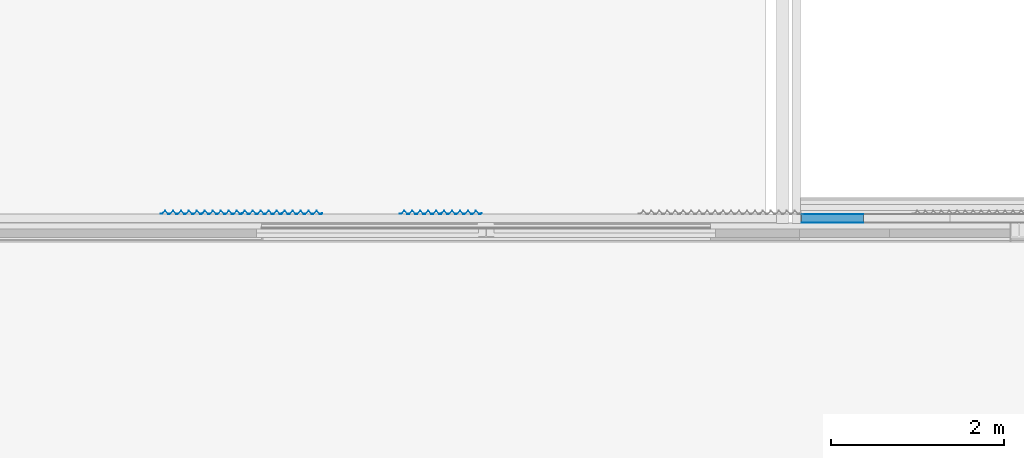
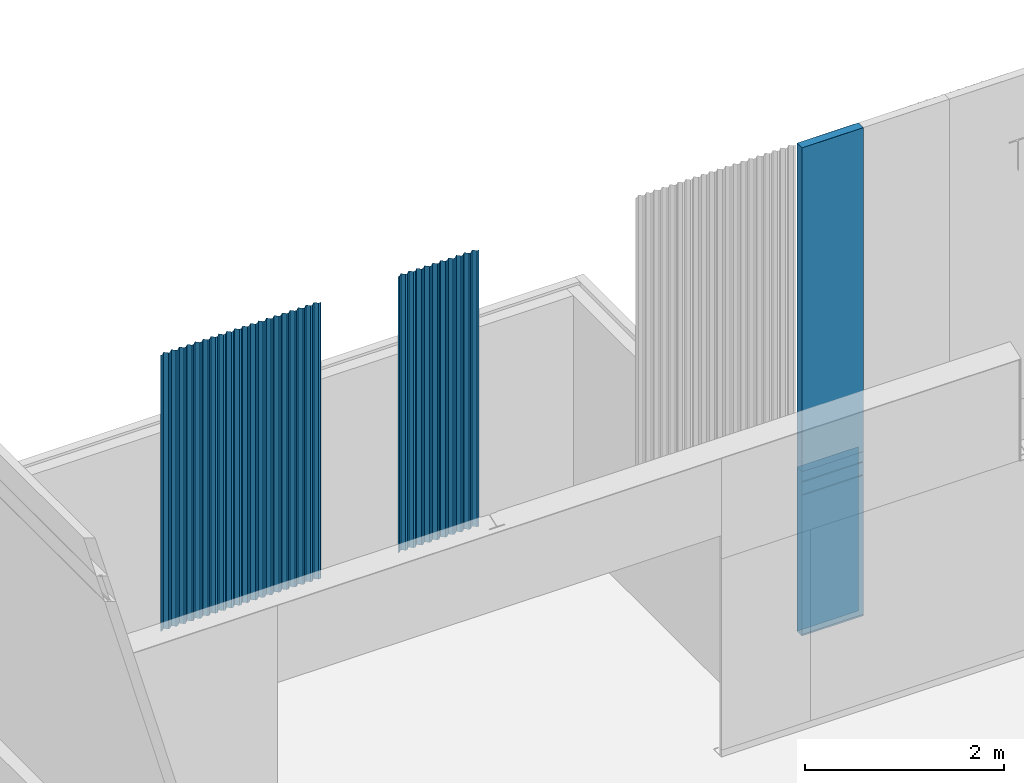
# One storey, part 95 of 338: 12 building element parts, 5 elements without a shape of their own.
"""IFC2X3 building model written with IfcOpenShell, lengths in millimetres."""

from ifc_helpers import new_model, entity, si_unit, converted_unit, derived_unit, money_unit, direction, frame, origin_with_axes, place, context, subcontext, project, spatial, faceted_brep, material, type_object, element, aggregate, save


model = new_model("IFC2X3")

# Units and contexts
model_context = context("Model", 3, precision=0.01, world=origin_with_axes(), true_north=direction((0.0, 1.0)))
plan_context = context("Plan", 3, precision=0.01, world=origin_with_axes(), true_north=direction((0.0, 1.0)))
body_context = subcontext(model_context, "Body", "Model", "MODEL_VIEW")
ifc_project = project(units=[si_unit("LENGTHUNIT", "METRE", prefix="MILLI"), si_unit("AREAUNIT", "SQUARE_METRE"), si_unit("VOLUMEUNIT", "CUBIC_METRE"), converted_unit("PLANEANGLEUNIT", "DEGREE", entity("IfcPlaneAngleMeasure", 0.0174532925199), si_unit("PLANEANGLEUNIT", "RADIAN"), dimensions=[0, 0, 0, 0, 0, 0, 0]), money_unit("EUR"), converted_unit("TIMEUNIT", "Year", entity("IfcTimeMeasure", 31556926.0), si_unit("TIMEUNIT", "SECOND"), dimensions=[0, 0, 1, 0, 0, 0, 0]), si_unit("MASSUNIT", "GRAM", prefix="KILO"), si_unit("THERMODYNAMICTEMPERATUREUNIT", "DEGREE_CELSIUS"), si_unit("LUMINOUSINTENSITYUNIT", "LUMEN"), si_unit("ENERGYUNIT", "JOULE", prefix="MEGA"), derived_unit("THERMALCONDUCTANCEUNIT", [(si_unit("POWERUNIT", "WATT"), 1), (si_unit("LENGTHUNIT", "METRE"), -1), (si_unit("THERMODYNAMICTEMPERATUREUNIT", "KELVIN"), -1)]), derived_unit("SPECIFICHEATCAPACITYUNIT", [(si_unit("ENERGYUNIT", "JOULE"), 1), (si_unit("MASSUNIT", "GRAM", prefix="KILO"), -1), (si_unit("THERMODYNAMICTEMPERATUREUNIT", "KELVIN"), -1)]), derived_unit("MASSDENSITYUNIT", [(si_unit("MASSUNIT", "GRAM", prefix="KILO"), 1), (si_unit("VOLUMEUNIT", "CUBIC_METRE"), -1)])], contexts=[model_context, plan_context])

# Site, building, storey
site_placement = place(None, origin_with_axes())
site = spatial("IfcSite", under=ifc_project, at=site_placement, Name="Fortuinstraat Woensdrecht", CompositionType="ELEMENT")
building_placement = place(site_placement, origin_with_axes())
building = spatial("IfcBuilding", under=site, at=building_placement, Name="IKC Fortuna", CompositionType="ELEMENT")
storey_placement = place(building_placement, origin_with_axes())
storey = spatial("IfcBuildingStorey", under=building, at=storey_placement, Name="00 begane grond", CompositionType="ELEMENT", Elevation=0.0)

# Wall, building element parts
wall_type = type_object("IfcWallType", Name="21 sandwich 100", PredefinedType="NOTDEFINED")
wall_1_placement = place(storey_placement, frame((44624.4270796, 35496.2966282, 1000.0), z_axis=(0.0, 0.0, 1.0), x_axis=(1.0, 0.0, 0.0)))
wall_1 = element("IfcWall", 1, at=wall_1_placement, inside=storey, type_object=wall_type, Name="21_Wand_sandwichplaat")
ifc_material_1 = material(Name="Metaal - Aluminium")
building_element_part_1_placement = place(wall_1_placement, origin_with_axes())
building_element_part_1 = element("IfcBuildingElementPart", 2, at=building_element_part_1_placement, material=ifc_material_1, Name="Metaal - Aluminium", context=body_context, shape_type="Brep", body=[
    faceted_brep([(713.999977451, 98.9999999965, 2019.99999434), (713.999977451, 99.9999999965, 2019.99999434), (4.90274487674e-10, 100.0, 2019.99999434), (4.83169060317e-10, 99.0, 2019.99999434), (713.999977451, 98.9999999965, 0.0), (713.999977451, 99.9999999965, 0.0), (4.90274487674e-10, 100.0, 0.0), (4.83169060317e-10, 99.0, 0.0)], [[[0, 1, 2, 3]], [[0, 4, 5, 1]], [[1, 5, 6, 2]], [[3, 2, 6, 7]], [[4, 0, 3, 7]], [[5, 4, 7, 6]]]),
])
ifc_material_2 = material(Name="Isolatie - Kunststof hard")
building_element_part_2_placement = place(wall_1_placement, origin_with_axes())
building_element_part_2 = element("IfcBuildingElementPart", 3, at=building_element_part_2_placement, material=ifc_material_2, Name="Isolatie - Kunststof hard", context=body_context, shape_type="Brep", body=[
    faceted_brep([(713.999977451, 9.00000001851, 1890.5), (713.999977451, 0.999999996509, 1890.5), (713.999977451, 0.999999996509, 1738.5), (713.999977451, 9.00000001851, 1738.5), (713.999977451, 9.00000001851, 1729.0), (713.999977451, 0.999999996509, 1729.0), (713.999977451, 0.999999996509, 0.0), (713.999977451, 98.9999999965, 0.0), (713.999977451, 98.9999999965, 2019.99999434), (713.999977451, 0.999999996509, 2019.99999434), (713.999977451, 0.999999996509, 1900.0), (713.999977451, 9.00000001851, 1900.0), (0.0, 9.000000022, 1890.5), (0.0, 0.999999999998, 1890.5), (0.0, 0.999999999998, 1738.5), (0.0, 9.000000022, 1738.5), (0.0, 9.000000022, 1729.0), (0.0, 0.999999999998, 1729.0), (0.0, 0.999999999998, 0.0), (4.83169060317e-10, 99.0, 0.0), (4.83169060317e-10, 99.0, 2019.99999434), (0.0, 0.999999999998, 2019.99999434), (0.0, 0.999999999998, 1900.0), (0.0, 9.000000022, 1900.0)], [[[0, 1, 2, 3, 4, 5, 6, 7, 8, 9, 10, 11]], [[1, 0, 12, 13]], [[1, 13, 14, 2]], [[3, 2, 14, 15]], [[4, 3, 15, 16]], [[5, 4, 16, 17]], [[5, 17, 18, 6]], [[19, 7, 6, 18]], [[20, 8, 7, 19]], [[21, 9, 8, 20]], [[22, 10, 9, 21]], [[11, 10, 22, 23]], [[0, 11, 23, 12]], [[23, 22, 21, 20, 19, 18, 17, 16, 15, 14, 13, 12]]]),
])
building_element_part_3_placement = place(wall_1_placement, origin_with_axes())
building_element_part_3 = element("IfcBuildingElementPart", 4, at=building_element_part_3_placement, material=ifc_material_1, Name="Metaal - Aluminium", context=body_context, shape_type="Brep", body=[
    faceted_brep([(0.0, 1.00000000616, 19.9966193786), (0.0, 0.999999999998, 1729.0), (713.999977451, 0.999999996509, 1729.0), (713.999977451, 1.00000000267, 19.9966193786), (0.0, 2.19912976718e-08, 19.996797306), (0.0, 0.0, 1729.0), (713.999977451, -3.48876483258e-09, 1729.0), (713.999977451, 1.85025328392e-08, 19.996797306)], [[[0, 1, 2, 3]], [[0, 4, 5, 1]], [[1, 5, 6, 2]], [[6, 7, 3, 2]], [[4, 0, 3, 7]], [[5, 4, 7, 6]]]),
    faceted_brep([(713.999977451, 0.999999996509, 1890.5), (713.999977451, -3.48876483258e-09, 1890.5), (713.999977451, -3.48876483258e-09, 1738.5), (713.999977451, 0.999999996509, 1738.5), (0.0, 0.999999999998, 1890.5), (0.0, 0.0, 1890.5), (0.0, 0.0, 1738.5), (0.0, 0.999999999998, 1738.5)], [[[0, 1, 2, 3]], [[1, 0, 4, 5]], [[1, 5, 6, 2]], [[7, 3, 2, 6]], [[4, 0, 3, 7]], [[5, 4, 7, 6]]]),
    faceted_brep([(713.999977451, -3.48876483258e-09, 1900.0), (713.999977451, 0.999999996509, 1900.0), (713.999977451, 0.999999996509, 2019.99999434), (713.999977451, -3.48876483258e-09, 2019.99999434), (0.0, 0.999999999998, 1900.0), (0.0, 0.0, 1900.0), (0.0, 0.999999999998, 2019.99999434), (0.0, 0.0, 2019.99999434)], [[[0, 1, 2, 3]], [[4, 1, 0, 5]], [[1, 4, 6, 2]], [[2, 6, 7, 3]], [[5, 0, 3, 7]], [[4, 5, 7, 6]]]),
])
aggregate(wall_1, [building_element_part_1, building_element_part_2, building_element_part_3])

wall_2_placement = place(storey_placement, frame((44624.4270796, 35496.2966282, 3019.99999434), z_axis=(0.0, 0.0, 1.0), x_axis=(1.0, 0.0, 0.0)))
wall_2 = element("IfcWall", 5, at=wall_2_placement, inside=storey, type_object=wall_type, Name="21_Wand_sandwichplaat")
building_element_part_4_placement = place(wall_2_placement, origin_with_axes())
building_element_part_4 = element("IfcBuildingElementPart", 6, at=building_element_part_4_placement, material=ifc_material_1, Name="Metaal - Aluminium", context=body_context, shape_type="Brep", body=[
    faceted_brep([(713.999977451, 98.9999999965, 3980.0000037), (713.999977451, 99.9999999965, 3980.0000037), (4.90274487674e-10, 100.0, 3980.0000037), (4.83169060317e-10, 99.0, 3980.0000037), (713.999977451, 98.9999999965, 0.0), (713.999977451, 99.9999999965, 0.0), (4.90274487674e-10, 100.0, 0.0), (4.83169060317e-10, 99.0, 0.0)], [[[0, 1, 2, 3]], [[0, 4, 5, 1]], [[1, 5, 6, 2]], [[3, 2, 6, 7]], [[4, 0, 3, 7]], [[5, 4, 7, 6]]]),
])
building_element_part_5_placement = place(wall_2_placement, origin_with_axes())
building_element_part_5 = element("IfcBuildingElementPart", 7, at=building_element_part_5_placement, material=ifc_material_2, Name="Isolatie - Kunststof hard", context=body_context, shape_type="Brep", body=[
    faceted_brep([(713.999977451, 0.999999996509, 3980.0000037), (713.999977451, 98.9999999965, 3980.0000037), (4.83169060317e-10, 99.0, 3980.0000037), (0.0, 0.999999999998, 3980.0000037), (713.999977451, 0.999999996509, 0.0), (713.999977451, 98.9999999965, 0.0), (4.83169060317e-10, 99.0, 0.0), (0.0, 0.999999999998, 0.0)], [[[0, 1, 2, 3]], [[0, 4, 5, 1]], [[1, 5, 6, 2]], [[3, 2, 6, 7]], [[4, 0, 3, 7]], [[5, 4, 7, 6]]]),
])
building_element_part_6_placement = place(wall_2_placement, origin_with_axes())
building_element_part_6 = element("IfcBuildingElementPart", 8, at=building_element_part_6_placement, material=ifc_material_1, Name="Metaal - Aluminium", context=body_context, shape_type="Brep", body=[
    faceted_brep([(713.999977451, -3.48876483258e-09, 3980.0000037), (713.999977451, 0.999999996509, 3980.0000037), (0.0, 0.999999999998, 3980.0000037), (0.0, 0.0, 3980.0000037), (713.999977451, -3.48876483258e-09, 0.0), (713.999977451, 0.999999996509, 0.0), (0.0, 0.999999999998, 0.0), (0.0, 0.0, 0.0)], [[[0, 1, 2, 3]], [[0, 4, 5, 1]], [[1, 5, 6, 2]], [[3, 2, 6, 7]], [[4, 0, 3, 7]], [[5, 4, 7, 6]]]),
])
aggregate(wall_2, [building_element_part_4, building_element_part_5, building_element_part_6])

# Proxy, building element parts
building_element_proxy_type = type_object("IfcBuildingElementProxyType", Name="21 Sandwich custom pyramid 946 x 37", PredefinedType="NOTDEFINED")
proxy_1_placement = place(storey_placement, frame((39987.1161554, 35596.2966199, 3585.0), z_axis=(0.0, 0.0, 1.0), x_axis=(1.0, 0.0, 0.0)))
proxy_1 = element("IfcBuildingElementProxy", 9, at=proxy_1_placement, inside=storey, type_object=building_element_proxy_type, Name="41_Generieke bekleding & afwerking buiten_sandwich custom pyramid")
building_element_part_7_placement = place(proxy_1_placement, origin_with_axes())
building_element_part_7 = element("IfcBuildingElementPart", 10, at=building_element_part_7_placement, material=ifc_material_1, Name="Metaal - Aluminium", context=body_context, shape_type="Brep", body=[
    faceted_brep([(0.0, 2.39999686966, 0.0), (0.0, 1.20000548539, 0.0), (0.0, 1.20000548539, 3394.99999804), (0.0, 2.39999686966, 3394.99999804), (16.7470988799, 2.39999686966, 0.0), (52.0000026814, 36.6736482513, 0.0), (88.487191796, 1.20000548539, 0.0), (107.51282048, 1.20000548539, 0.0), (143.999995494, 36.6736482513, 0.0), (180.487184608, 1.20000548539, 0.0), (199.512813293, 1.20000548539, 0.0), (236.000002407, 36.6736482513, 0.0), (272.487191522, 1.20000548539, 0.0), (291.512820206, 1.20000548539, 0.0), (327.99999522, 36.6736482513, 0.0), (364.487184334, 1.20000548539, 0.0), (383.512813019, 1.20000548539, 0.0), (420.000002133, 36.6736482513, 0.0), (456.487191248, 1.20000548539, 0.0), (460.000006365, 1.20000548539, 0.0), (477.23428491, 1.20000548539, 0.0), (485.472879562, 9.20975302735, 0.0), (486.309372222, 8.34935896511, 0.0), (477.721464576, 0.0, 0.0), (455.999997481, 0.0, 0.0), (420.000002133, 35.0000001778, 0.0), (384.000006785, 0.0, 0.0), (364.000004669, 0.0, 0.0), (327.99999522, 35.0000001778, 0.0), (291.999999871, 0.0, 0.0), (271.999997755, 0.0, 0.0), (236.000002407, 35.0000001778, 0.0), (199.999992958, 0.0, 0.0), (180.000004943, 0.0, 0.0), (143.999995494, 35.0000001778, 0.0), (108.000000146, 0.0, 0.0), (87.9999980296, 0.0, 0.0), (52.0000026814, 35.0000001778, 0.0), (17.2342926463, 1.20000548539, 0.0), (17.2342926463, 1.20000548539, 3394.99999804), (52.0000026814, 35.0000001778, 3394.99999804), (87.9999980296, 0.0, 3394.99999804), (108.000000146, 0.0, 3394.99999804), (143.999995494, 35.0000001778, 3394.99999804), (180.000004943, 0.0, 3394.99999804), (199.999992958, 0.0, 3394.99999804), (236.000002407, 35.0000001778, 3394.99999804), (271.999997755, 0.0, 3394.99999804), (291.999999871, 0.0, 3394.99999804), (327.99999522, 35.0000001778, 3394.99999804), (364.000004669, 0.0, 3394.99999804), (384.000006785, 0.0, 3394.99999804), (420.000002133, 35.0000001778, 3394.99999804), (455.999997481, 0.0, 3394.99999804), (477.721464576, 0.0, 3394.99999804), (486.309372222, 8.34935896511, 3394.99999804), (485.472879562, 9.20975302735, 3394.99999804), (477.23428491, 1.20000548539, 3394.99999804), (460.000006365, 1.20000548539, 3394.99999804), (456.487191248, 1.20000548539, 3394.99999804), (420.000002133, 36.6736482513, 3394.99999804), (383.512813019, 1.20000548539, 3394.99999804), (364.487184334, 1.20000548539, 3394.99999804), (327.99999522, 36.6736482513, 3394.99999804), (291.512820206, 1.20000548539, 3394.99999804), (272.487191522, 1.20000548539, 3394.99999804), (236.000002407, 36.6736482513, 3394.99999804), (199.512813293, 1.20000548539, 3394.99999804), (180.487184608, 1.20000548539, 3394.99999804), (143.999995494, 36.6736482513, 3394.99999804), (107.51282048, 1.20000548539, 3394.99999804), (88.487191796, 1.20000548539, 3394.99999804), (52.0000026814, 36.6736482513, 3394.99999804), (16.7470988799, 2.39999686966, 3394.99999804)], [[[0, 1, 2, 3]], [[0, 4, 5, 6, 7, 8, 9, 10, 11, 12, 13, 14, 15, 16, 17, 18, 19, 20, 21, 22, 23, 24, 25, 26, 27, 28, 29, 30, 31, 32, 33, 34, 35, 36, 37, 38, 1]], [[1, 38, 39, 2]], [[3, 2, 39, 40, 41, 42, 43, 44, 45, 46, 47, 48, 49, 50, 51, 52, 53, 54, 55, 56, 57, 58, 59, 60, 61, 62, 63, 64, 65, 66, 67, 68, 69, 70, 71, 72, 73]], [[4, 0, 3, 73]], [[5, 4, 73, 72]], [[6, 5, 72, 71]], [[7, 6, 71, 70]], [[8, 7, 70, 69]], [[9, 8, 69, 68]], [[10, 9, 68, 67]], [[11, 10, 67, 66]], [[12, 11, 66, 65]], [[13, 12, 65, 64]], [[14, 13, 64, 63]], [[15, 14, 63, 62]], [[16, 15, 62, 61]], [[17, 16, 61, 60]], [[18, 17, 60, 59]], [[19, 18, 59, 58]], [[20, 19, 58, 57]], [[21, 20, 57, 56]], [[22, 21, 56, 55]], [[23, 22, 55, 54]], [[24, 23, 54, 53]], [[25, 24, 53, 52]], [[26, 25, 52, 51]], [[27, 26, 51, 50]], [[28, 27, 50, 49]], [[29, 28, 49, 48]], [[30, 29, 48, 47]], [[31, 30, 47, 46]], [[32, 31, 46, 45]], [[33, 32, 45, 44]], [[34, 33, 44, 43]], [[35, 34, 43, 42]], [[36, 35, 42, 41]], [[37, 36, 41, 40]], [[38, 37, 40, 39]]]),
])
building_element_part_8_placement = place(proxy_1_placement, origin_with_axes())
building_element_part_8 = element("IfcBuildingElementPart", 11, at=building_element_part_8_placement, material=ifc_material_1, Name="Metaal - Aluminium", context=body_context, shape_type="Brep", body=[
    faceted_brep([(460.0, 1.2, 0.0), (477.234285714, 1.2, 0.0), (477.234285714, 1.2, 3394.99999804), (460.0, 1.2, 3394.99999804), (460.0, 2.4, 0.0), (476.747100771, 2.4, 0.0), (512.0, 36.6736520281, 0.0), (548.487184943, 1.2, 0.0), (567.512815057, 1.2, 0.0), (604.0, 36.6736520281, 0.0), (640.487184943, 1.2, 0.0), (659.512815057, 1.2, 0.0), (696.0, 36.6736520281, 0.0), (732.487184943, 1.2, 0.0), (751.512815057, 1.2, 0.0), (788.0, 36.6736520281, 0.0), (824.487184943, 1.2, 0.0), (843.512815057, 1.2, 0.0), (880.0, 36.6736520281, 0.0), (916.487184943, 1.2, 0.0), (937.234285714, 1.2, 0.0), (945.472884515, 9.20974883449, 0.0), (946.309378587, 8.34935493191, 0.0), (937.721470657, 0.0, 0.0), (916.0, 0.0, 0.0), (880.0, 35.0, 0.0), (844.0, 0.0, 0.0), (824.0, 0.0, 0.0), (788.0, 35.0, 0.0), (752.0, 0.0, 0.0), (732.0, 0.0, 0.0), (696.0, 35.0, 0.0), (660.0, 0.0, 0.0), (640.0, 0.0, 0.0), (604.0, 35.0, 0.0), (568.0, 0.0, 0.0), (548.0, 0.0, 0.0), (512.0, 35.0, 0.0), (485.472879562, 9.20975302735, 0.0), (485.472879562, 9.20975302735, 3394.99999804), (512.0, 35.0, 3394.99999804), (548.0, 0.0, 3394.99999804), (568.0, 0.0, 3394.99999804), (604.0, 35.0, 3394.99999804), (640.0, 0.0, 3394.99999804), (660.0, 0.0, 3394.99999804), (696.0, 35.0, 3394.99999804), (732.0, 0.0, 3394.99999804), (752.0, 0.0, 3394.99999804), (788.0, 35.0, 3394.99999804), (824.0, 0.0, 3394.99999804), (844.0, 0.0, 3394.99999804), (880.0, 35.0, 3394.99999804), (916.0, 0.0, 3394.99999804), (937.721470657, 0.0, 3394.99999804), (946.309378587, 8.34935493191, 3394.99999804), (945.472884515, 9.20974883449, 3394.99999804), (937.234285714, 1.2, 3394.99999804), (916.487184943, 1.2, 3394.99999804), (880.0, 36.6736520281, 3394.99999804), (843.512815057, 1.2, 3394.99999804), (824.487184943, 1.2, 3394.99999804), (788.0, 36.6736520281, 3394.99999804), (751.512815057, 1.2, 3394.99999804), (732.487184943, 1.2, 3394.99999804), (696.0, 36.6736520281, 3394.99999804), (659.512815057, 1.2, 3394.99999804), (640.487184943, 1.2, 3394.99999804), (604.0, 36.6736520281, 3394.99999804), (567.512815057, 1.2, 3394.99999804), (548.487184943, 1.2, 3394.99999804), (512.0, 36.6736520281, 3394.99999804), (476.747100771, 2.4, 3394.99999804), (460.0, 2.4, 3394.99999804)], [[[0, 1, 2, 3]], [[0, 4, 5, 6, 7, 8, 9, 10, 11, 12, 13, 14, 15, 16, 17, 18, 19, 20, 21, 22, 23, 24, 25, 26, 27, 28, 29, 30, 31, 32, 33, 34, 35, 36, 37, 38, 1]], [[1, 38, 39, 2]], [[3, 2, 39, 40, 41, 42, 43, 44, 45, 46, 47, 48, 49, 50, 51, 52, 53, 54, 55, 56, 57, 58, 59, 60, 61, 62, 63, 64, 65, 66, 67, 68, 69, 70, 71, 72, 73]], [[4, 0, 3, 73]], [[5, 4, 73, 72]], [[6, 5, 72, 71]], [[7, 6, 71, 70]], [[8, 7, 70, 69]], [[9, 8, 69, 68]], [[10, 9, 68, 67]], [[11, 10, 67, 66]], [[12, 11, 66, 65]], [[13, 12, 65, 64]], [[14, 13, 64, 63]], [[15, 14, 63, 62]], [[16, 15, 62, 61]], [[17, 16, 61, 60]], [[18, 17, 60, 59]], [[19, 18, 59, 58]], [[20, 19, 58, 57]], [[21, 20, 57, 56]], [[22, 21, 56, 55]], [[23, 22, 55, 54]], [[24, 23, 54, 53]], [[25, 24, 53, 52]], [[26, 25, 52, 51]], [[27, 26, 51, 50]], [[28, 27, 50, 49]], [[29, 28, 49, 48]], [[30, 29, 48, 47]], [[31, 30, 47, 46]], [[32, 31, 46, 45]], [[33, 32, 45, 44]], [[34, 33, 44, 43]], [[35, 34, 43, 42]], [[36, 35, 42, 41]], [[37, 36, 41, 40]], [[38, 37, 40, 39]]]),
])
aggregate(proxy_1, [building_element_part_7, building_element_part_8])

proxy_2_placement = place(storey_placement, frame((38147.1161554, 35596.2966199, 3585.0), z_axis=(0.0, 0.0, 1.0), x_axis=(1.0, 0.0, 0.0)))
proxy_2 = element("IfcBuildingElementProxy", 12, at=proxy_2_placement, inside=storey, type_object=building_element_proxy_type, Name="41_Generieke bekleding & afwerking buiten_sandwich custom pyramid")
building_element_part_9_placement = place(proxy_2_placement, origin_with_axes())
building_element_part_9 = element("IfcBuildingElementPart", 13, at=building_element_part_9_placement, material=ifc_material_1, Name="Metaal - Aluminium", context=body_context, shape_type="Brep", body=[
    faceted_brep([(0.0, 2.39999686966, 0.0), (0.0, 1.20000548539, 0.0), (0.0, 1.20000548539, 3394.99999804), (0.0, 2.39999686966, 3394.99999804), (16.7470988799, 2.39999686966, 0.0), (52.0000026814, 36.6736482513, 0.0), (88.487191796, 1.20000548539, 0.0), (107.51282048, 1.20000548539, 0.0), (143.999995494, 36.6736482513, 0.0), (180.487184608, 1.20000548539, 0.0), (199.512813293, 1.20000548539, 0.0), (236.000002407, 36.6736482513, 0.0), (272.487191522, 1.20000548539, 0.0), (291.512820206, 1.20000548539, 0.0), (327.99999522, 36.6736482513, 0.0), (364.487184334, 1.20000548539, 0.0), (383.512813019, 1.20000548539, 0.0), (420.000002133, 36.6736482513, 0.0), (456.487191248, 1.20000548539, 0.0), (460.000006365, 1.20000548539, 0.0), (477.23428491, 1.20000548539, 0.0), (485.472879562, 9.20975302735, 0.0), (486.309372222, 8.34935896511, 0.0), (477.721464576, 0.0, 0.0), (455.999997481, 0.0, 0.0), (420.000002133, 35.0000001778, 0.0), (384.000006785, 0.0, 0.0), (364.000004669, 0.0, 0.0), (327.99999522, 35.0000001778, 0.0), (291.999999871, 0.0, 0.0), (271.999997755, 0.0, 0.0), (236.000002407, 35.0000001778, 0.0), (199.999992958, 0.0, 0.0), (180.000004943, 0.0, 0.0), (143.999995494, 35.0000001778, 0.0), (108.000000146, 0.0, 0.0), (87.9999980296, 0.0, 0.0), (52.0000026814, 35.0000001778, 0.0), (17.2342926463, 1.20000548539, 0.0), (17.2342926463, 1.20000548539, 3394.99999804), (52.0000026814, 35.0000001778, 3394.99999804), (87.9999980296, 0.0, 3394.99999804), (108.000000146, 0.0, 3394.99999804), (143.999995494, 35.0000001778, 3394.99999804), (180.000004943, 0.0, 3394.99999804), (199.999992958, 0.0, 3394.99999804), (236.000002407, 35.0000001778, 3394.99999804), (271.999997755, 0.0, 3394.99999804), (291.999999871, 0.0, 3394.99999804), (327.99999522, 35.0000001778, 3394.99999804), (364.000004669, 0.0, 3394.99999804), (384.000006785, 0.0, 3394.99999804), (420.000002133, 35.0000001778, 3394.99999804), (455.999997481, 0.0, 3394.99999804), (477.721464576, 0.0, 3394.99999804), (486.309372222, 8.34935896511, 3394.99999804), (485.472879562, 9.20975302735, 3394.99999804), (477.23428491, 1.20000548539, 3394.99999804), (460.000006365, 1.20000548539, 3394.99999804), (456.487191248, 1.20000548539, 3394.99999804), (420.000002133, 36.6736482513, 3394.99999804), (383.512813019, 1.20000548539, 3394.99999804), (364.487184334, 1.20000548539, 3394.99999804), (327.99999522, 36.6736482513, 3394.99999804), (291.512820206, 1.20000548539, 3394.99999804), (272.487191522, 1.20000548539, 3394.99999804), (236.000002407, 36.6736482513, 3394.99999804), (199.512813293, 1.20000548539, 3394.99999804), (180.487184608, 1.20000548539, 3394.99999804), (143.999995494, 36.6736482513, 3394.99999804), (107.51282048, 1.20000548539, 3394.99999804), (88.487191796, 1.20000548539, 3394.99999804), (52.0000026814, 36.6736482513, 3394.99999804), (16.7470988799, 2.39999686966, 3394.99999804)], [[[0, 1, 2, 3]], [[0, 4, 5, 6, 7, 8, 9, 10, 11, 12, 13, 14, 15, 16, 17, 18, 19, 20, 21, 22, 23, 24, 25, 26, 27, 28, 29, 30, 31, 32, 33, 34, 35, 36, 37, 38, 1]], [[1, 38, 39, 2]], [[3, 2, 39, 40, 41, 42, 43, 44, 45, 46, 47, 48, 49, 50, 51, 52, 53, 54, 55, 56, 57, 58, 59, 60, 61, 62, 63, 64, 65, 66, 67, 68, 69, 70, 71, 72, 73]], [[4, 0, 3, 73]], [[5, 4, 73, 72]], [[6, 5, 72, 71]], [[7, 6, 71, 70]], [[8, 7, 70, 69]], [[9, 8, 69, 68]], [[10, 9, 68, 67]], [[11, 10, 67, 66]], [[12, 11, 66, 65]], [[13, 12, 65, 64]], [[14, 13, 64, 63]], [[15, 14, 63, 62]], [[16, 15, 62, 61]], [[17, 16, 61, 60]], [[18, 17, 60, 59]], [[19, 18, 59, 58]], [[20, 19, 58, 57]], [[21, 20, 57, 56]], [[22, 21, 56, 55]], [[23, 22, 55, 54]], [[24, 23, 54, 53]], [[25, 24, 53, 52]], [[26, 25, 52, 51]], [[27, 26, 51, 50]], [[28, 27, 50, 49]], [[29, 28, 49, 48]], [[30, 29, 48, 47]], [[31, 30, 47, 46]], [[32, 31, 46, 45]], [[33, 32, 45, 44]], [[34, 33, 44, 43]], [[35, 34, 43, 42]], [[36, 35, 42, 41]], [[37, 36, 41, 40]], [[38, 37, 40, 39]]]),
])
building_element_part_10_placement = place(proxy_2_placement, origin_with_axes())
building_element_part_10 = element("IfcBuildingElementPart", 14, at=building_element_part_10_placement, material=ifc_material_1, Name="Metaal - Aluminium", context=body_context, shape_type="Brep", body=[
    faceted_brep([(460.0, 1.2, 0.0), (477.234285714, 1.2, 0.0), (477.234285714, 1.2, 3394.99999804), (460.0, 1.2, 3394.99999804), (460.0, 2.4, 0.0), (476.747100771, 2.4, 0.0), (512.0, 36.6736520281, 0.0), (548.487184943, 1.2, 0.0), (567.512815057, 1.2, 0.0), (604.0, 36.6736520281, 0.0), (640.487184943, 1.2, 0.0), (659.512815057, 1.2, 0.0), (696.0, 36.6736520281, 0.0), (732.487184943, 1.2, 0.0), (751.512815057, 1.2, 0.0), (788.0, 36.6736520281, 0.0), (824.487184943, 1.2, 0.0), (843.512815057, 1.2, 0.0), (880.0, 36.6736520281, 0.0), (916.487184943, 1.2, 0.0), (937.234285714, 1.2, 0.0), (945.472884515, 9.20974883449, 0.0), (946.309378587, 8.34935493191, 0.0), (937.721470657, 0.0, 0.0), (916.0, 0.0, 0.0), (880.0, 35.0, 0.0), (844.0, 0.0, 0.0), (824.0, 0.0, 0.0), (788.0, 35.0, 0.0), (752.0, 0.0, 0.0), (732.0, 0.0, 0.0), (696.0, 35.0, 0.0), (660.0, 0.0, 0.0), (640.0, 0.0, 0.0), (604.0, 35.0, 0.0), (568.0, 0.0, 0.0), (548.0, 0.0, 0.0), (512.0, 35.0, 0.0), (485.472879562, 9.20975302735, 0.0), (485.472879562, 9.20975302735, 3394.99999804), (512.0, 35.0, 3394.99999804), (548.0, 0.0, 3394.99999804), (568.0, 0.0, 3394.99999804), (604.0, 35.0, 3394.99999804), (640.0, 0.0, 3394.99999804), (660.0, 0.0, 3394.99999804), (696.0, 35.0, 3394.99999804), (732.0, 0.0, 3394.99999804), (752.0, 0.0, 3394.99999804), (788.0, 35.0, 3394.99999804), (824.0, 0.0, 3394.99999804), (844.0, 0.0, 3394.99999804), (880.0, 35.0, 3394.99999804), (916.0, 0.0, 3394.99999804), (937.721470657, 0.0, 3394.99999804), (946.309378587, 8.34935493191, 3394.99999804), (945.472884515, 9.20974883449, 3394.99999804), (937.234285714, 1.2, 3394.99999804), (916.487184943, 1.2, 3394.99999804), (880.0, 36.6736520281, 3394.99999804), (843.512815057, 1.2, 3394.99999804), (824.487184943, 1.2, 3394.99999804), (788.0, 36.6736520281, 3394.99999804), (751.512815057, 1.2, 3394.99999804), (732.487184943, 1.2, 3394.99999804), (696.0, 36.6736520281, 3394.99999804), (659.512815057, 1.2, 3394.99999804), (640.487184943, 1.2, 3394.99999804), (604.0, 36.6736520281, 3394.99999804), (567.512815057, 1.2, 3394.99999804), (548.487184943, 1.2, 3394.99999804), (512.0, 36.6736520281, 3394.99999804), (476.747100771, 2.4, 3394.99999804), (460.0, 2.4, 3394.99999804)], [[[0, 1, 2, 3]], [[0, 4, 5, 6, 7, 8, 9, 10, 11, 12, 13, 14, 15, 16, 17, 18, 19, 20, 21, 22, 23, 24, 25, 26, 27, 28, 29, 30, 31, 32, 33, 34, 35, 36, 37, 38, 1]], [[1, 38, 39, 2]], [[3, 2, 39, 40, 41, 42, 43, 44, 45, 46, 47, 48, 49, 50, 51, 52, 53, 54, 55, 56, 57, 58, 59, 60, 61, 62, 63, 64, 65, 66, 67, 68, 69, 70, 71, 72, 73]], [[4, 0, 3, 73]], [[5, 4, 73, 72]], [[6, 5, 72, 71]], [[7, 6, 71, 70]], [[8, 7, 70, 69]], [[9, 8, 69, 68]], [[10, 9, 68, 67]], [[11, 10, 67, 66]], [[12, 11, 66, 65]], [[13, 12, 65, 64]], [[14, 13, 64, 63]], [[15, 14, 63, 62]], [[16, 15, 62, 61]], [[17, 16, 61, 60]], [[18, 17, 60, 59]], [[19, 18, 59, 58]], [[20, 19, 58, 57]], [[21, 20, 57, 56]], [[22, 21, 56, 55]], [[23, 22, 55, 54]], [[24, 23, 54, 53]], [[25, 24, 53, 52]], [[26, 25, 52, 51]], [[27, 26, 51, 50]], [[28, 27, 50, 49]], [[29, 28, 49, 48]], [[30, 29, 48, 47]], [[31, 30, 47, 46]], [[32, 31, 46, 45]], [[33, 32, 45, 44]], [[34, 33, 44, 43]], [[35, 34, 43, 42]], [[36, 35, 42, 41]], [[37, 36, 41, 40]], [[38, 37, 40, 39]]]),
])
aggregate(proxy_2, [building_element_part_9, building_element_part_10])

proxy_3_placement = place(storey_placement, frame((37227.1161554, 35596.2966199, 3585.0), z_axis=(0.0, 0.0, 1.0), x_axis=(1.0, 0.0, 0.0)))
proxy_3 = element("IfcBuildingElementProxy", 15, at=proxy_3_placement, inside=storey, type_object=building_element_proxy_type, Name="41_Generieke bekleding & afwerking buiten_sandwich custom pyramid")
building_element_part_11_placement = place(proxy_3_placement, origin_with_axes())
building_element_part_11 = element("IfcBuildingElementPart", 16, at=building_element_part_11_placement, material=ifc_material_1, Name="Metaal - Aluminium", context=body_context, shape_type="Brep", body=[
    faceted_brep([(0.0, 2.39999686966, 0.0), (0.0, 1.20000548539, 0.0), (0.0, 1.20000548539, 3394.99999804), (0.0, 2.39999686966, 3394.99999804), (16.7470988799, 2.39999686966, 0.0), (52.0000026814, 36.6736482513, 0.0), (88.487191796, 1.20000548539, 0.0), (107.51282048, 1.20000548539, 0.0), (143.999995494, 36.6736482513, 0.0), (180.487184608, 1.20000548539, 0.0), (199.512813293, 1.20000548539, 0.0), (236.000002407, 36.6736482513, 0.0), (272.487191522, 1.20000548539, 0.0), (291.512820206, 1.20000548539, 0.0), (327.99999522, 36.6736482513, 0.0), (364.487184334, 1.20000548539, 0.0), (383.512813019, 1.20000548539, 0.0), (420.000002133, 36.6736482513, 0.0), (456.487191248, 1.20000548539, 0.0), (460.000006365, 1.20000548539, 0.0), (477.23428491, 1.20000548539, 0.0), (485.472879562, 9.20975302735, 0.0), (486.309372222, 8.34935896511, 0.0), (477.721464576, 0.0, 0.0), (455.999997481, 0.0, 0.0), (420.000002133, 35.0000001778, 0.0), (384.000006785, 0.0, 0.0), (364.000004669, 0.0, 0.0), (327.99999522, 35.0000001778, 0.0), (291.999999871, 0.0, 0.0), (271.999997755, 0.0, 0.0), (236.000002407, 35.0000001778, 0.0), (199.999992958, 0.0, 0.0), (180.000004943, 0.0, 0.0), (143.999995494, 35.0000001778, 0.0), (108.000000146, 0.0, 0.0), (87.9999980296, 0.0, 0.0), (52.0000026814, 35.0000001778, 0.0), (17.2342926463, 1.20000548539, 0.0), (17.2342926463, 1.20000548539, 3394.99999804), (52.0000026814, 35.0000001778, 3394.99999804), (87.9999980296, 0.0, 3394.99999804), (108.000000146, 0.0, 3394.99999804), (143.999995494, 35.0000001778, 3394.99999804), (180.000004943, 0.0, 3394.99999804), (199.999992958, 0.0, 3394.99999804), (236.000002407, 35.0000001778, 3394.99999804), (271.999997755, 0.0, 3394.99999804), (291.999999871, 0.0, 3394.99999804), (327.99999522, 35.0000001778, 3394.99999804), (364.000004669, 0.0, 3394.99999804), (384.000006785, 0.0, 3394.99999804), (420.000002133, 35.0000001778, 3394.99999804), (455.999997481, 0.0, 3394.99999804), (477.721464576, 0.0, 3394.99999804), (486.309372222, 8.34935896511, 3394.99999804), (485.472879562, 9.20975302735, 3394.99999804), (477.23428491, 1.20000548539, 3394.99999804), (460.000006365, 1.20000548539, 3394.99999804), (456.487191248, 1.20000548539, 3394.99999804), (420.000002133, 36.6736482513, 3394.99999804), (383.512813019, 1.20000548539, 3394.99999804), (364.487184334, 1.20000548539, 3394.99999804), (327.99999522, 36.6736482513, 3394.99999804), (291.512820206, 1.20000548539, 3394.99999804), (272.487191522, 1.20000548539, 3394.99999804), (236.000002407, 36.6736482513, 3394.99999804), (199.512813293, 1.20000548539, 3394.99999804), (180.487184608, 1.20000548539, 3394.99999804), (143.999995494, 36.6736482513, 3394.99999804), (107.51282048, 1.20000548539, 3394.99999804), (88.487191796, 1.20000548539, 3394.99999804), (52.0000026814, 36.6736482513, 3394.99999804), (16.7470988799, 2.39999686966, 3394.99999804)], [[[0, 1, 2, 3]], [[0, 4, 5, 6, 7, 8, 9, 10, 11, 12, 13, 14, 15, 16, 17, 18, 19, 20, 21, 22, 23, 24, 25, 26, 27, 28, 29, 30, 31, 32, 33, 34, 35, 36, 37, 38, 1]], [[1, 38, 39, 2]], [[3, 2, 39, 40, 41, 42, 43, 44, 45, 46, 47, 48, 49, 50, 51, 52, 53, 54, 55, 56, 57, 58, 59, 60, 61, 62, 63, 64, 65, 66, 67, 68, 69, 70, 71, 72, 73]], [[4, 0, 3, 73]], [[5, 4, 73, 72]], [[6, 5, 72, 71]], [[7, 6, 71, 70]], [[8, 7, 70, 69]], [[9, 8, 69, 68]], [[10, 9, 68, 67]], [[11, 10, 67, 66]], [[12, 11, 66, 65]], [[13, 12, 65, 64]], [[14, 13, 64, 63]], [[15, 14, 63, 62]], [[16, 15, 62, 61]], [[17, 16, 61, 60]], [[18, 17, 60, 59]], [[19, 18, 59, 58]], [[20, 19, 58, 57]], [[21, 20, 57, 56]], [[22, 21, 56, 55]], [[23, 22, 55, 54]], [[24, 23, 54, 53]], [[25, 24, 53, 52]], [[26, 25, 52, 51]], [[27, 26, 51, 50]], [[28, 27, 50, 49]], [[29, 28, 49, 48]], [[30, 29, 48, 47]], [[31, 30, 47, 46]], [[32, 31, 46, 45]], [[33, 32, 45, 44]], [[34, 33, 44, 43]], [[35, 34, 43, 42]], [[36, 35, 42, 41]], [[37, 36, 41, 40]], [[38, 37, 40, 39]]]),
])
building_element_part_12_placement = place(proxy_3_placement, origin_with_axes())
building_element_part_12 = element("IfcBuildingElementPart", 17, at=building_element_part_12_placement, material=ifc_material_1, Name="Metaal - Aluminium", context=body_context, shape_type="Brep", body=[
    faceted_brep([(460.0, 1.2, 0.0), (477.234285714, 1.2, 0.0), (477.234285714, 1.2, 3394.99999804), (460.0, 1.2, 3394.99999804), (460.0, 2.4, 0.0), (476.747100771, 2.4, 0.0), (512.0, 36.6736520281, 0.0), (548.487184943, 1.2, 0.0), (567.512815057, 1.2, 0.0), (604.0, 36.6736520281, 0.0), (640.487184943, 1.2, 0.0), (659.512815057, 1.2, 0.0), (696.0, 36.6736520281, 0.0), (732.487184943, 1.2, 0.0), (751.512815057, 1.2, 0.0), (788.0, 36.6736520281, 0.0), (824.487184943, 1.2, 0.0), (843.512815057, 1.2, 0.0), (880.0, 36.6736520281, 0.0), (916.487184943, 1.2, 0.0), (937.234285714, 1.2, 0.0), (945.472884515, 9.20974883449, 0.0), (946.309378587, 8.34935493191, 0.0), (937.721470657, 0.0, 0.0), (916.0, 0.0, 0.0), (880.0, 35.0, 0.0), (844.0, 0.0, 0.0), (824.0, 0.0, 0.0), (788.0, 35.0, 0.0), (752.0, 0.0, 0.0), (732.0, 0.0, 0.0), (696.0, 35.0, 0.0), (660.0, 0.0, 0.0), (640.0, 0.0, 0.0), (604.0, 35.0, 0.0), (568.0, 0.0, 0.0), (548.0, 0.0, 0.0), (512.0, 35.0, 0.0), (485.472879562, 9.20975302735, 0.0), (485.472879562, 9.20975302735, 3394.99999804), (512.0, 35.0, 3394.99999804), (548.0, 0.0, 3394.99999804), (568.0, 0.0, 3394.99999804), (604.0, 35.0, 3394.99999804), (640.0, 0.0, 3394.99999804), (660.0, 0.0, 3394.99999804), (696.0, 35.0, 3394.99999804), (732.0, 0.0, 3394.99999804), (752.0, 0.0, 3394.99999804), (788.0, 35.0, 3394.99999804), (824.0, 0.0, 3394.99999804), (844.0, 0.0, 3394.99999804), (880.0, 35.0, 3394.99999804), (916.0, 0.0, 3394.99999804), (937.721470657, 0.0, 3394.99999804), (946.309378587, 8.34935493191, 3394.99999804), (945.472884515, 9.20974883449, 3394.99999804), (937.234285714, 1.2, 3394.99999804), (916.487184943, 1.2, 3394.99999804), (880.0, 36.6736520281, 3394.99999804), (843.512815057, 1.2, 3394.99999804), (824.487184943, 1.2, 3394.99999804), (788.0, 36.6736520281, 3394.99999804), (751.512815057, 1.2, 3394.99999804), (732.487184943, 1.2, 3394.99999804), (696.0, 36.6736520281, 3394.99999804), (659.512815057, 1.2, 3394.99999804), (640.487184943, 1.2, 3394.99999804), (604.0, 36.6736520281, 3394.99999804), (567.512815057, 1.2, 3394.99999804), (548.487184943, 1.2, 3394.99999804), (512.0, 36.6736520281, 3394.99999804), (476.747100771, 2.4, 3394.99999804), (460.0, 2.4, 3394.99999804)], [[[0, 1, 2, 3]], [[0, 4, 5, 6, 7, 8, 9, 10, 11, 12, 13, 14, 15, 16, 17, 18, 19, 20, 21, 22, 23, 24, 25, 26, 27, 28, 29, 30, 31, 32, 33, 34, 35, 36, 37, 38, 1]], [[1, 38, 39, 2]], [[3, 2, 39, 40, 41, 42, 43, 44, 45, 46, 47, 48, 49, 50, 51, 52, 53, 54, 55, 56, 57, 58, 59, 60, 61, 62, 63, 64, 65, 66, 67, 68, 69, 70, 71, 72, 73]], [[4, 0, 3, 73]], [[5, 4, 73, 72]], [[6, 5, 72, 71]], [[7, 6, 71, 70]], [[8, 7, 70, 69]], [[9, 8, 69, 68]], [[10, 9, 68, 67]], [[11, 10, 67, 66]], [[12, 11, 66, 65]], [[13, 12, 65, 64]], [[14, 13, 64, 63]], [[15, 14, 63, 62]], [[16, 15, 62, 61]], [[17, 16, 61, 60]], [[18, 17, 60, 59]], [[19, 18, 59, 58]], [[20, 19, 58, 57]], [[21, 20, 57, 56]], [[22, 21, 56, 55]], [[23, 22, 55, 54]], [[24, 23, 54, 53]], [[25, 24, 53, 52]], [[26, 25, 52, 51]], [[27, 26, 51, 50]], [[28, 27, 50, 49]], [[29, 28, 49, 48]], [[30, 29, 48, 47]], [[31, 30, 47, 46]], [[32, 31, 46, 45]], [[33, 32, 45, 44]], [[34, 33, 44, 43]], [[35, 34, 43, 42]], [[36, 35, 42, 41]], [[37, 36, 41, 40]], [[38, 37, 40, 39]]]),
])
aggregate(proxy_3, [building_element_part_11, building_element_part_12])

save(model, "model.ifc")
